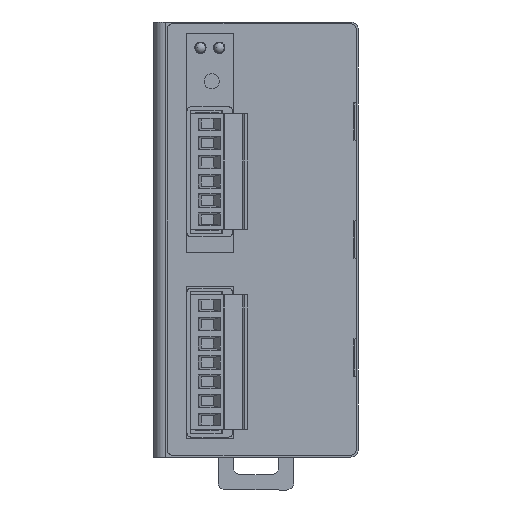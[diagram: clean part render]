
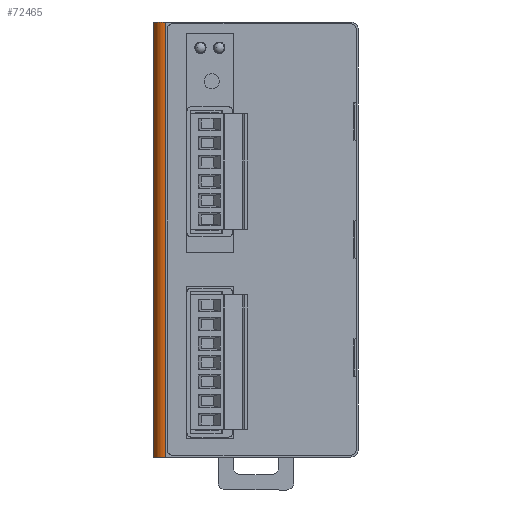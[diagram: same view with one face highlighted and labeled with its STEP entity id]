
A CAD part, left-side view. The second image highlights one B-rep face of the part: STEP entity #72465.
In plain terms, the highlighted cylindrical face has radius 3 mm (diameter 6 mm), a partial arc.
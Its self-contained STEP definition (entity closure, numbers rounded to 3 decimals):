
#2582 = VECTOR ( 'NONE', #59346, 1000. ) ;
#3276 = ORIENTED_EDGE ( 'NONE', *, *, #74112, .T. ) ;
#3423 = CIRCLE ( 'NONE', #85130, 3. ) ;
#6596 = CARTESIAN_POINT ( 'NONE',  ( -52., 24., -57.5 ) ) ;
#7580 = ORIENTED_EDGE ( 'NONE', *, *, #76269, .T. ) ;
#14614 = VERTEX_POINT ( 'NONE', #78006 ) ;
#15057 = DIRECTION ( 'NONE',  ( 0., 1., 0. ) ) ;
#19908 = VECTOR ( 'NONE', #109249, 1000. ) ;
#24213 = CYLINDRICAL_SURFACE ( 'NONE', #32332, 3. ) ;
#24422 = CARTESIAN_POINT ( 'NONE',  ( -52., 27., 57.5 ) ) ;
#29649 = VERTEX_POINT ( 'NONE', #47273 ) ;
#32332 = AXIS2_PLACEMENT_3D ( 'NONE', #81744, #106575, #82084 ) ;
#35978 = AXIS2_PLACEMENT_3D ( 'NONE', #97922, #47089, #106454 ) ;
#42378 = LINE ( 'NONE', #24422, #19908 ) ;
#47089 = DIRECTION ( 'NONE',  ( 0., 0., -1. ) ) ;
#47273 = CARTESIAN_POINT ( 'NONE',  ( -52., 27., -57.5 ) ) ;
#51103 = CARTESIAN_POINT ( 'NONE',  ( -55., 24., 57.5 ) ) ;
#57336 = FACE_OUTER_BOUND ( 'NONE', #58562, .T. ) ;
#58562 = EDGE_LOOP ( 'NONE', ( #7580, #3276, #81313, #88425 ) ) ;
#59346 = DIRECTION ( 'NONE',  ( 0., 0., 1. ) ) ;
#65618 = DIRECTION ( 'NONE',  ( 0., 0., 1. ) ) ;
#67259 = LINE ( 'NONE', #51103, #2582 ) ;
#71843 = VERTEX_POINT ( 'NONE', #89653 ) ;
#72465 = ADVANCED_FACE ( 'NONE', ( #57336 ), #24213, .T. ) ;
#72953 = EDGE_CURVE ( 'NONE', #14614, #71843, #97098, .T. ) ;
#74112 = EDGE_CURVE ( 'NONE', #105962, #14614, #67259, .T. ) ;
#75804 = CARTESIAN_POINT ( 'NONE',  ( -55., 24., -57.5 ) ) ;
#76269 = EDGE_CURVE ( 'NONE', #29649, #105962, #3423, .T. ) ;
#78006 = CARTESIAN_POINT ( 'NONE',  ( -55., 24., 57.5 ) ) ;
#81313 = ORIENTED_EDGE ( 'NONE', *, *, #72953, .T. ) ;
#81744 = CARTESIAN_POINT ( 'NONE',  ( -52., 24., 57.5 ) ) ;
#82084 = DIRECTION ( 'NONE',  ( 0., 1., 0. ) ) ;
#85130 = AXIS2_PLACEMENT_3D ( 'NONE', #6596, #65618, #15057 ) ;
#88425 = ORIENTED_EDGE ( 'NONE', *, *, #101318, .T. ) ;
#89653 = CARTESIAN_POINT ( 'NONE',  ( -52., 27., 57.5 ) ) ;
#97098 = CIRCLE ( 'NONE', #35978, 3. ) ;
#97922 = CARTESIAN_POINT ( 'NONE',  ( -52., 24., 57.5 ) ) ;
#101318 = EDGE_CURVE ( 'NONE', #71843, #29649, #42378, .T. ) ;
#105962 = VERTEX_POINT ( 'NONE', #75804 ) ;
#106454 = DIRECTION ( 'NONE',  ( 0., 1., 0. ) ) ;
#106575 = DIRECTION ( 'NONE',  ( 0., 0., -1. ) ) ;
#109249 = DIRECTION ( 'NONE',  ( 0., 0., -1. ) ) ;
